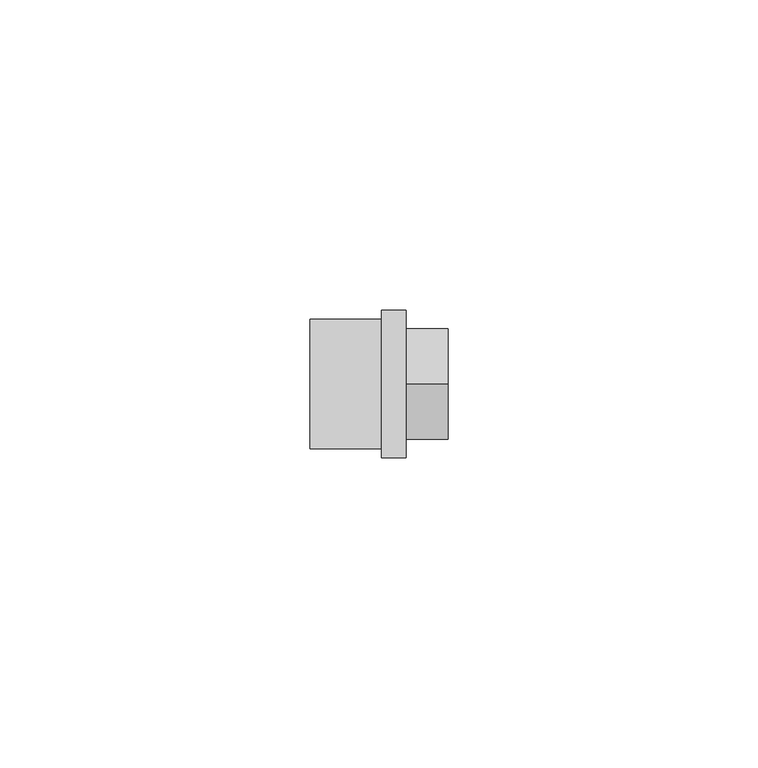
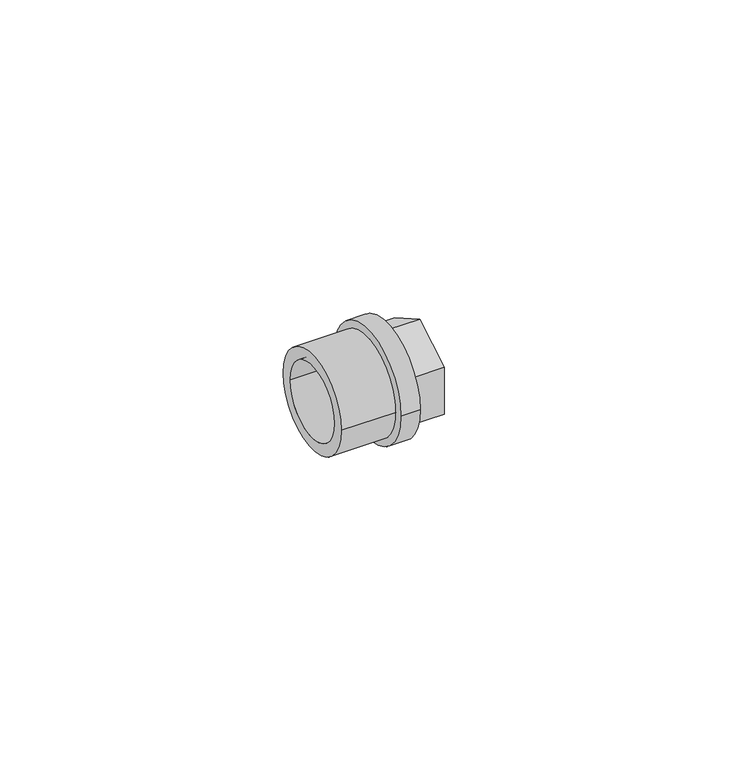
"""IFC4 building model written with IfcOpenShell, lengths in millimetres: pipe fitting geometry, 10_Заглушка резьбовая : Белый цвет."""

from ifc_helpers import new_model, si_unit, point, frame, origin, origin_2d, place, context, project, spatial, polyline, circle_curve, trimmed, segment, composite_curve, outline, extrude, source, transform, mapped, element, save


def pipe_fitting_e818e856(model_context):
    return source(origin(), model_context, "Body", "SweptSolid", [
        extrude(outline(polyline([(-8.9, 5.1384174), (0.0, 10.2768348), (8.9, 5.1384174), (8.9, -5.1384174), (0.0, -10.2768348), (-8.9, -5.1384174), (-8.9, 5.1384174)])), frame((15.5, 0.0, 0.0), z_axis=(1.0, 0.0, 0.0), x_axis=(0.0, 1.0, 0.0)), (0.0, 0.0, 1.0), 6.73),
        extrude(outline(composite_curve([segment(trimmed(circle_curve(origin_2d(), 11.9), [point((-11.9, 0.0))], [point((11.9, 0.0))], False, "CARTESIAN"), True, "CONTINUOUS"), segment(trimmed(circle_curve(origin_2d(), 11.9), [point((11.9, 0.0))], [point((-11.9, 0.0))], False, "CARTESIAN"), True, "CONTINUOUS")], self_intersect=False)), frame((11.5, 0.0, 0.0), z_axis=(1.0, 0.0, 0.0), x_axis=(0.0, 1.0, 0.0)), (0.0, 0.0, 1.0), 4.0),
        extrude(outline(composite_curve([segment(trimmed(circle_curve(origin_2d(), 10.4), [point((-10.4, 0.0))], [point((10.4, 0.0))], False, "CARTESIAN"), True, "CONTINUOUS"), segment(trimmed(circle_curve(origin_2d(), 10.4), [point((10.4, 0.0))], [point((-10.4, 0.0))], False, "CARTESIAN"), True, "CONTINUOUS")], self_intersect=False), holes=[composite_curve([segment(trimmed(circle_curve(origin_2d(), 7.9), [point((-7.9, 0.0))], [point((7.9, 0.0))], True, "CARTESIAN"), True, "CONTINUOUS"), segment(trimmed(circle_curve(origin_2d(), 7.9), [point((7.9, 0.0))], [point((-7.9, 0.0))], True, "CARTESIAN"), True, "CONTINUOUS")], self_intersect=False)]), frame((0.0, 0.0, 0.0), z_axis=(1.0, 0.0, 0.0), x_axis=(0.0, 1.0, 0.0)), (0.0, 0.0, 1.0), 11.5),
    ])


if __name__ == "__main__":
    model = new_model("IFC4")
    model_context = context("Model", 3, world=origin())
    ifc_project = project(units=[si_unit("LENGTHUNIT", "METRE", prefix="MILLI")], contexts=[model_context])
    site = spatial("IfcSite", under=ifc_project)
    building = spatial("IfcBuilding", under=site)
    placement = place(None, origin())
    pipe_fitting_shape = pipe_fitting_e818e856(model_context)
    element("IfcPipeFitting", 1, ObjectType="10_Заглушка резьбовая : Белый цвет", at=placement, inside=building, context=model_context, shape_type="MappedRepresentation", body=[
        mapped(pipe_fitting_shape, transform((0.0, 0.0, 0.0), x_axis=(1.0, 0.0, 0.0), y_axis=(0.0, 1.0, 0.0), z_axis=(0.0, 0.0, 1.0))),
    ])
    save(model, "model.ifc")
